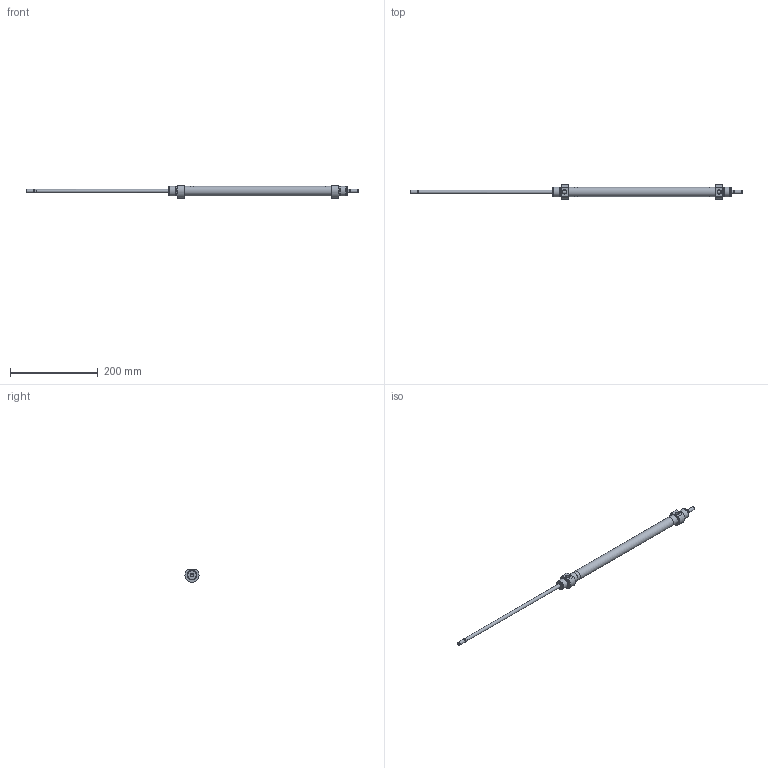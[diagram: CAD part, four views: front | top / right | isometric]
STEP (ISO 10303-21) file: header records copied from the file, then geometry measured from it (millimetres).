
FILE_DESCRIPTION( ( 'STEP AP203' ), '1' );
FILE_NAME( '//expscmdclustefs.cadenas.external/client_exchange/iodir/jobs/output/wkb68462872_no0/STEP/M101-020-0300--__0__2_03.stp', ' ', ( ' ' ), ( ' ' ), 'PSStep 15.0.47', 'PARTsolutions', ' ' );
FILE_SCHEMA( ( 'CONFIG_CONTROL_DESIGN' ) );
Length unit declared in the file: millimetre
Products named in the file (3): M101-020-0300-- [0]; HI_M101-020-0300---[0]-z; HI_M101-020-0300---[0]-k
Assembly tree (2 placements, depth 2):
  M101-020-0300-- [0]
    HI_M101-020-0300---[0]-z
    HI_M101-020-0300---[0]-k
Bounding box: 756 x 32 x 28 mm (x, y, z)
Volume: 98302 mm3; surface area: 73281.2 mm2
Topology: 2 solids, 2 shells, 65 faces, 129 edges, 80 vertices
Faces by surface type: plane 26, cylinder 23, cone 14, torus 2
Full cylindrical faces by diameter (mm): 6.466 x2, 8 x6, 8.566 x2, 20 x2, 20.16 x4, 21.6 x1, 22 x4
Entity records: 1702 total; most frequent: CARTESIAN_POINT 356, DIRECTION 280, ORIENTED_EDGE 184, AXIS2_PLACEMENT_3D 128, EDGE_LOOP 116, EDGE_CURVE 92, FACE_OUTER_BOUND 88, VERTEX_POINT 76
